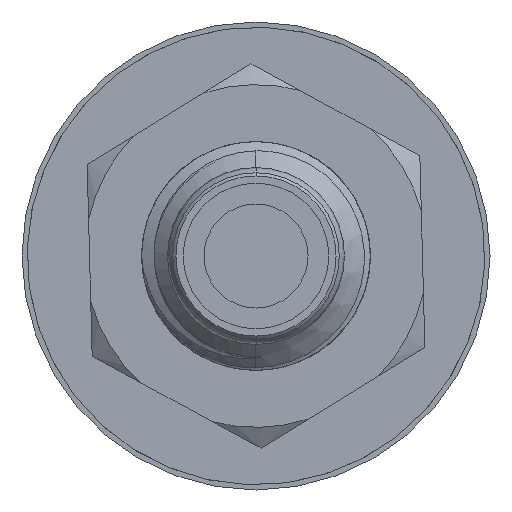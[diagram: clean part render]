
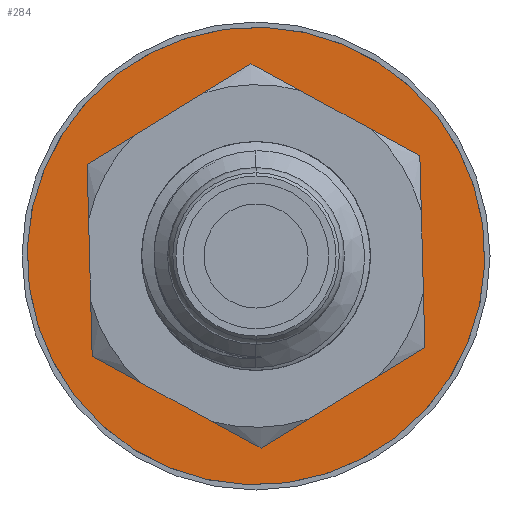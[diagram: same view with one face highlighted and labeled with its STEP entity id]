
A CAD part, front view. The second image highlights one B-rep face of the part: STEP entity #284.
In plain terms, the highlighted planar face has unit normal (0, -1, 0) as drawn and (0, 0, 1) by its records, which use the part's own axes.
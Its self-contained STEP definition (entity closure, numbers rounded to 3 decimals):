
#49 = EDGE_LOOP ( 'NONE', ( #7458, #7168 ) ) ;
#284 = ADVANCED_FACE ( 'NONE', ( #4702, #6159 ), #1576, .T. ) ;
#442 = DIRECTION ( 'NONE',  ( 1., 0., 0. ) ) ;
#464 = DIRECTION ( 'NONE',  ( 0., 0., 1. ) ) ;
#519 = CARTESIAN_POINT ( 'NONE',  ( 0., 0., 1.5 ) ) ;
#571 = CARTESIAN_POINT ( 'NONE',  ( -22., 0., 1.5 ) ) ;
#676 = DIRECTION ( 'NONE',  ( 0., 0., 1. ) ) ;
#777 = EDGE_CURVE ( 'NONE', #5370, #7542, #1396, .T. ) ;
#790 = VERTEX_POINT ( 'NONE', #2285 ) ;
#1396 = CIRCLE ( 'NONE', #4415, 22. ) ;
#1576 = PLANE ( 'NONE',  #6706 ) ;
#1842 = ORIENTED_EDGE ( 'NONE', *, *, #777, .T. ) ;
#2013 = DIRECTION ( 'NONE',  ( -1., 0., 0. ) ) ;
#2042 = DIRECTION ( 'NONE',  ( 0., 0., 1. ) ) ;
#2064 = CARTESIAN_POINT ( 'NONE',  ( 0., 0., 1.5 ) ) ;
#2143 = DIRECTION ( 'NONE',  ( -1., 0., 0. ) ) ;
#2285 = CARTESIAN_POINT ( 'NONE',  ( -12., 0., 1.5 ) ) ;
#2411 = DIRECTION ( 'NONE',  ( 0., 0., -1. ) ) ;
#2464 = CARTESIAN_POINT ( 'NONE',  ( 22., 0., 1.5 ) ) ;
#2607 = DIRECTION ( 'NONE',  ( 0., 0., -1. ) ) ;
#2632 = CARTESIAN_POINT ( 'NONE',  ( 0., 0., 1.5 ) ) ;
#2678 = CIRCLE ( 'NONE', #5694, 12. ) ;
#2916 = AXIS2_PLACEMENT_3D ( 'NONE', #6069, #2411, #6690 ) ;
#2945 = EDGE_CURVE ( 'NONE', #7716, #790, #2678, .T. ) ;
#4132 = EDGE_CURVE ( 'NONE', #7542, #5370, #5152, .T. ) ;
#4270 = CARTESIAN_POINT ( 'NONE',  ( 0., 0., 1.5 ) ) ;
#4415 = AXIS2_PLACEMENT_3D ( 'NONE', #2064, #2042, #2013 ) ;
#4702 = FACE_BOUND ( 'NONE', #49, .T. ) ;
#4912 = DIRECTION ( 'NONE',  ( -1., 0., 0. ) ) ;
#5152 = CIRCLE ( 'NONE', #6808, 22. ) ;
#5370 = VERTEX_POINT ( 'NONE', #571 ) ;
#5400 = EDGE_CURVE ( 'NONE', #790, #7716, #7832, .T. ) ;
#5694 = AXIS2_PLACEMENT_3D ( 'NONE', #2632, #2607, #2143 ) ;
#6069 = CARTESIAN_POINT ( 'NONE',  ( 0., 0., 1.5 ) ) ;
#6120 = EDGE_LOOP ( 'NONE', ( #1842, #6234 ) ) ;
#6159 = FACE_OUTER_BOUND ( 'NONE', #6120, .T. ) ;
#6234 = ORIENTED_EDGE ( 'NONE', *, *, #4132, .T. ) ;
#6690 = DIRECTION ( 'NONE',  ( -1., 0., 0. ) ) ;
#6706 = AXIS2_PLACEMENT_3D ( 'NONE', #519, #464, #442 ) ;
#6808 = AXIS2_PLACEMENT_3D ( 'NONE', #4270, #676, #4912 ) ;
#7168 = ORIENTED_EDGE ( 'NONE', *, *, #2945, .T. ) ;
#7458 = ORIENTED_EDGE ( 'NONE', *, *, #5400, .T. ) ;
#7542 = VERTEX_POINT ( 'NONE', #2464 ) ;
#7716 = VERTEX_POINT ( 'NONE', #7857 ) ;
#7832 = CIRCLE ( 'NONE', #2916, 12. ) ;
#7857 = CARTESIAN_POINT ( 'NONE',  ( 12., 0., 1.5 ) ) ;
